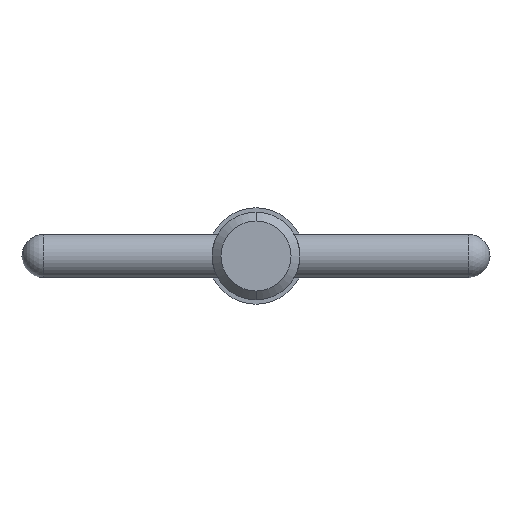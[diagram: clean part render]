
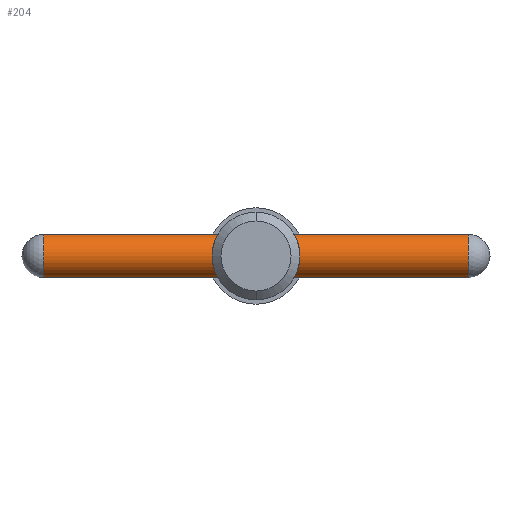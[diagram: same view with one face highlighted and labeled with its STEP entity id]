
A CAD part, left-side view. The second image highlights one B-rep face of the part: STEP entity #204.
In plain terms, the highlighted cylindrical face has radius 1.19 mm (diameter 2.38 mm), a partial arc.
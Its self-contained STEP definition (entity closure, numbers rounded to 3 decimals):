
#4 = VERTEX_POINT ( 'NONE', #656 ) ;
#11 = FACE_OUTER_BOUND ( 'NONE', #495, .T. ) ;
#21 = AXIS2_PLACEMENT_3D ( 'NONE', #254, #472, #714 ) ;
#54 = CIRCLE ( 'NONE', #21, 1.19 ) ;
#111 = VECTOR ( 'NONE', #834, 1000. ) ;
#160 = DIRECTION ( 'NONE',  ( 0., 0., -1. ) ) ;
#191 = VERTEX_POINT ( 'NONE', #593 ) ;
#204 = ADVANCED_FACE ( 'NONE', ( #11 ), #232, .T. ) ;
#216 = DIRECTION ( 'NONE',  ( 0., -1., 0. ) ) ;
#219 = VECTOR ( 'NONE', #615, 1000. ) ;
#232 = CYLINDRICAL_SURFACE ( 'NONE', #635, 1.19 ) ;
#246 = CARTESIAN_POINT ( 'NONE',  ( 0., 12.7, 0. ) ) ;
#254 = CARTESIAN_POINT ( 'NONE',  ( 0., -11.51, 0. ) ) ;
#271 = EDGE_CURVE ( 'NONE', #710, #191, #853, .T. ) ;
#460 = CARTESIAN_POINT ( 'NONE',  ( 0., 12.7, 1.19 ) ) ;
#463 = CARTESIAN_POINT ( 'NONE',  ( 0., 12.7, -1.19 ) ) ;
#466 = LINE ( 'NONE', #463, #219 ) ;
#472 = DIRECTION ( 'NONE',  ( 0., 1., 0. ) ) ;
#495 = EDGE_LOOP ( 'NONE', ( #651, #577, #620, #570 ) ) ;
#535 = LINE ( 'NONE', #460, #111 ) ;
#537 = DIRECTION ( 'NONE',  ( 0., 0., -1. ) ) ;
#570 = ORIENTED_EDGE ( 'NONE', *, *, #939, .T. ) ;
#577 = ORIENTED_EDGE ( 'NONE', *, *, #271, .T. ) ;
#593 = CARTESIAN_POINT ( 'NONE',  ( 0., 11.51, -1.19 ) ) ;
#615 = DIRECTION ( 'NONE',  ( 0., -1., 0. ) ) ;
#620 = ORIENTED_EDGE ( 'NONE', *, *, #697, .T. ) ;
#633 = VERTEX_POINT ( 'NONE', #883 ) ;
#635 = AXIS2_PLACEMENT_3D ( 'NONE', #246, #216, #537 ) ;
#651 = ORIENTED_EDGE ( 'NONE', *, *, #815, .F. ) ;
#656 = CARTESIAN_POINT ( 'NONE',  ( 0., -11.51, 1.19 ) ) ;
#684 = AXIS2_PLACEMENT_3D ( 'NONE', #837, #689, #160 ) ;
#689 = DIRECTION ( 'NONE',  ( 0., -1., 0. ) ) ;
#697 = EDGE_CURVE ( 'NONE', #191, #633, #466, .T. ) ;
#710 = VERTEX_POINT ( 'NONE', #772 ) ;
#714 = DIRECTION ( 'NONE',  ( 0., 0., -1. ) ) ;
#772 = CARTESIAN_POINT ( 'NONE',  ( 0., 11.51, 1.19 ) ) ;
#815 = EDGE_CURVE ( 'NONE', #710, #4, #535, .T. ) ;
#834 = DIRECTION ( 'NONE',  ( 0., -1., 0. ) ) ;
#837 = CARTESIAN_POINT ( 'NONE',  ( 0., 11.51, 0. ) ) ;
#853 = CIRCLE ( 'NONE', #684, 1.19 ) ;
#883 = CARTESIAN_POINT ( 'NONE',  ( 0., -11.51, -1.19 ) ) ;
#939 = EDGE_CURVE ( 'NONE', #633, #4, #54, .T. ) ;
